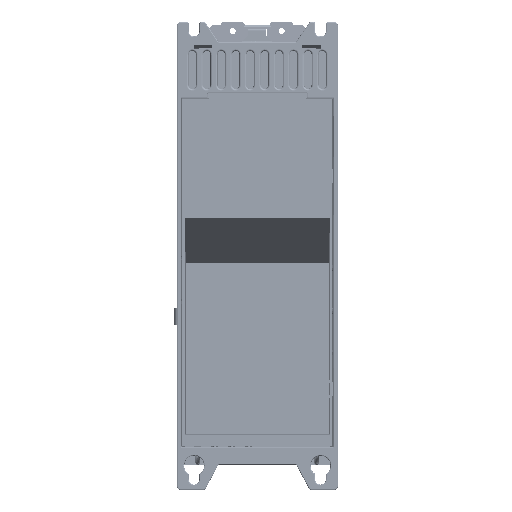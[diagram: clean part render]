
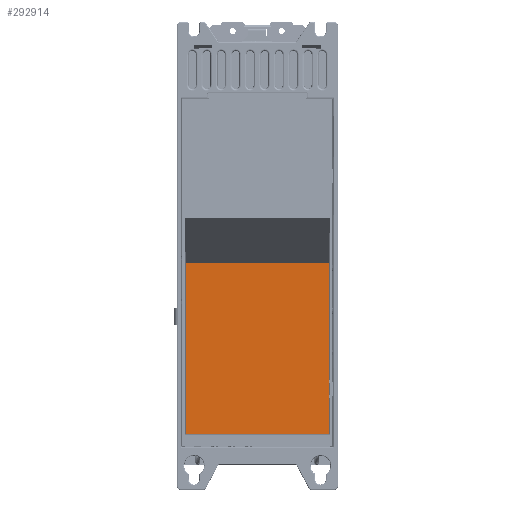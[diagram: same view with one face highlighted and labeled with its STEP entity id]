
A CAD part, front view. The second image highlights one B-rep face of the part: STEP entity #292914.
In plain terms, the highlighted planar face has unit normal (0, -1, 0) as drawn and (0, 0, 1) by its records, which use the part's own axes.
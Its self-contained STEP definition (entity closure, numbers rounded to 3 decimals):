
#290686=DIRECTION('',(1.,0.,0.));
#290687=VECTOR('',#290686,94.504);
#290688=CARTESIAN_POINT('',(1.196,-39.6,-28.5));
#290689=LINE('',#290688,#290687);
#290698=DIRECTION('',(0.,1.,0.));
#290699=VECTOR('',#290698,79.2);
#290700=CARTESIAN_POINT('',(1.196,-39.6,-28.5));
#290701=LINE('',#290700,#290699);
#290702=DIRECTION('',(1.,0.,0.));
#290703=VECTOR('',#290702,94.504);
#290704=CARTESIAN_POINT('',(1.196,39.6,-28.5));
#290705=LINE('',#290704,#290703);
#290706=DIRECTION('',(0.,1.,0.));
#290707=VECTOR('',#290706,79.2);
#290708=CARTESIAN_POINT('',(95.7,-39.6,-28.5));
#290709=LINE('',#290708,#290707);
#291373=CARTESIAN_POINT('',(1.196,39.6,-28.5));
#291374=VERTEX_POINT('',#291373);
#291375=CARTESIAN_POINT('',(95.7,39.6,-28.5));
#291376=VERTEX_POINT('',#291375);
#291390=CARTESIAN_POINT('',(1.196,-39.6,-28.5));
#291391=VERTEX_POINT('',#291390);
#291392=CARTESIAN_POINT('',(95.7,-39.6,-28.5));
#291393=VERTEX_POINT('',#291392);
#292902=CARTESIAN_POINT('',(1.196,-41.6,-28.5));
#292903=DIRECTION('',(0.,0.,1.));
#292904=DIRECTION('',(1.,0.,0.));
#292905=AXIS2_PLACEMENT_3D('',#292902,#292903,#292904);
#292906=PLANE('',#292905);
#292907=ORIENTED_EDGE('',*,*,#292872,.F.);
#292908=ORIENTED_EDGE('',*,*,#292861,.T.);
#292909=ORIENTED_EDGE('',*,*,#292827,.T.);
#292911=ORIENTED_EDGE('',*,*,#292910,.F.);
#292912=EDGE_LOOP('',(#292907,#292908,#292909,#292911));
#292913=FACE_OUTER_BOUND('',#292912,.F.);
#292914=ADVANCED_FACE('',(#292913),#292906,.T.);
#292827=EDGE_CURVE('',#291374,#291376,#290705,.T.);
#292861=EDGE_CURVE('',#291391,#291374,#290701,.T.);
#292872=EDGE_CURVE('',#291391,#291393,#290689,.T.);
#292910=EDGE_CURVE('',#291393,#291376,#290709,.T.);
